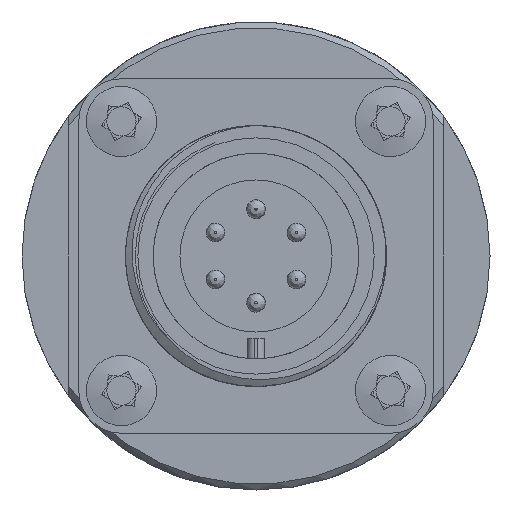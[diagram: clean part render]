
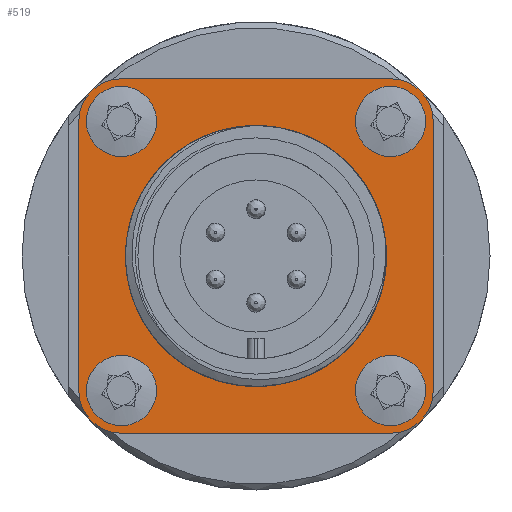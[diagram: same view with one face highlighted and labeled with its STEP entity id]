
A CAD part, front view. The second image highlights one B-rep face of the part: STEP entity #519.
In plain terms, the highlighted planar face has unit normal (0, -1, 0) as drawn and (-1, 0, 0) by its records, which use the part's own axes.
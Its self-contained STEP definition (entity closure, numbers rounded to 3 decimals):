
#519 = ADVANCED_FACE( '', ( #1071, #1072, #1073, #1074, #1075, #1076 ), #1077, .F. );
#1071 = FACE_BOUND( '', #3096, .T. );
#1072 = FACE_BOUND( '', #3097, .T. );
#1073 = FACE_OUTER_BOUND( '', #3098, .T. );
#1074 = FACE_BOUND( '', #3099, .T. );
#1075 = FACE_BOUND( '', #3100, .T. );
#1076 = FACE_BOUND( '', #3101, .T. );
#1077 = PLANE( '', #3102 );
#3096 = EDGE_LOOP( '', ( #7224 ) );
#3097 = EDGE_LOOP( '', ( #7225 ) );
#3098 = EDGE_LOOP( '', ( #7226, #7227, #7228, #7229, #7230, #7231, #7232, #7233 ) );
#3099 = EDGE_LOOP( '', ( #7234 ) );
#3100 = EDGE_LOOP( '', ( #7235 ) );
#3101 = EDGE_LOOP( '', ( #7236 ) );
#3102 = AXIS2_PLACEMENT_3D( '', #7237, #7238, #7239 );
#7224 = ORIENTED_EDGE( '', *, *, #8359, .T. );
#7225 = ORIENTED_EDGE( '', *, *, #8360, .T. );
#7226 = ORIENTED_EDGE( '', *, *, #8361, .F. );
#7227 = ORIENTED_EDGE( '', *, *, #8362, .F. );
#7228 = ORIENTED_EDGE( '', *, *, #8363, .F. );
#7229 = ORIENTED_EDGE( '', *, *, #8268, .F. );
#7230 = ORIENTED_EDGE( '', *, *, #8337, .F. );
#7231 = ORIENTED_EDGE( '', *, *, #8129, .F. );
#7232 = ORIENTED_EDGE( '', *, *, #8364, .F. );
#7233 = ORIENTED_EDGE( '', *, *, #8365, .F. );
#7234 = ORIENTED_EDGE( '', *, *, #8190, .T. );
#7235 = ORIENTED_EDGE( '', *, *, #8366, .T. );
#7236 = ORIENTED_EDGE( '', *, *, #8229, .T. );
#7237 = CARTESIAN_POINT( '', ( -2.4, -11.5, 11.5 ) );
#7238 = DIRECTION( '', ( 1., 0., 0. ) );
#7239 = DIRECTION( '', ( 0., 1., 0. ) );
#8129 = EDGE_CURVE( '', #8674, #8676, #8677, .T. );
#8190 = EDGE_CURVE( '', #8780, #8780, #8781, .T. );
#8229 = EDGE_CURVE( '', #8841, #8841, #8842, .T. );
#8268 = EDGE_CURVE( '', #8902, #8904, #8905, .T. );
#8337 = EDGE_CURVE( '', #8676, #8902, #9019, .T. );
#8359 = EDGE_CURVE( '', #9054, #9054, #9055, .T. );
#8360 = EDGE_CURVE( '', #9056, #9056, #9057, .T. );
#8361 = EDGE_CURVE( '', #9058, #9059, #9060, .T. );
#8362 = EDGE_CURVE( '', #9061, #9058, #9062, .T. );
#8363 = EDGE_CURVE( '', #8904, #9061, #9063, .T. );
#8364 = EDGE_CURVE( '', #9064, #8674, #9065, .T. );
#8365 = EDGE_CURVE( '', #9059, #9064, #9066, .T. );
#8366 = EDGE_CURVE( '', #9067, #9067, #9068, .T. );
#8674 = VERTEX_POINT( '', #9880 );
#8676 = VERTEX_POINT( '', #9883 );
#8677 = LINE( '', #9884, #9885 );
#8780 = VERTEX_POINT( '', #10133 );
#8781 = CIRCLE( '', #10134, 1.5 );
#8841 = VERTEX_POINT( '', #10209 );
#8842 = CIRCLE( '', #10210, 1.5 );
#8902 = VERTEX_POINT( '', #10361 );
#8904 = VERTEX_POINT( '', #10364 );
#8905 = LINE( '', #10365, #10366 );
#9019 = CIRCLE( '', #10821, 3.65 );
#9054 = VERTEX_POINT( '', #10887 );
#9055 = CIRCLE( '', #10888, 11.15 );
#9056 = VERTEX_POINT( '', #10889 );
#9057 = CIRCLE( '', #10890, 1.5 );
#9058 = VERTEX_POINT( '', #10891 );
#9059 = VERTEX_POINT( '', #10892 );
#9060 = CIRCLE( '', #10893, 3.65 );
#9061 = VERTEX_POINT( '', #10894 );
#9062 = LINE( '', #10895, #10896 );
#9063 = CIRCLE( '', #10897, 3.65 );
#9064 = VERTEX_POINT( '', #10898 );
#9065 = CIRCLE( '', #10899, 3.65 );
#9066 = LINE( '', #10900, #10901 );
#9067 = VERTEX_POINT( '', #10902 );
#9068 = CIRCLE( '', #10903, 1.5 );
#9880 = CARTESIAN_POINT( '', ( -2.4, -11.5, -15.15 ) );
#9883 = CARTESIAN_POINT( '', ( -2.4, 11.5, -15.15 ) );
#9884 = CARTESIAN_POINT( '', ( -2.4, -11.5, -15.15 ) );
#9885 = VECTOR( '', #13280, 1000. );
#10133 = CARTESIAN_POINT( '', ( -2.4, 13., 11.5 ) );
#10134 = AXIS2_PLACEMENT_3D( '', #13359, #13360, #13361 );
#10209 = CARTESIAN_POINT( '', ( -2.4, -10., -11.5 ) );
#10210 = AXIS2_PLACEMENT_3D( '', #13417, #13418, #13419 );
#10361 = CARTESIAN_POINT( '', ( -2.4, 15.15, -11.5 ) );
#10364 = CARTESIAN_POINT( '', ( -2.4, 15.15, 11.5 ) );
#10365 = CARTESIAN_POINT( '', ( -2.4, 15.15, 11.5 ) );
#10366 = VECTOR( '', #13472, 1000. );
#10821 = AXIS2_PLACEMENT_3D( '', #13562, #13563, #13564 );
#10887 = CARTESIAN_POINT( '', ( -2.4, 11.15, 0. ) );
#10888 = AXIS2_PLACEMENT_3D( '', #13595, #13596, #13597 );
#10889 = CARTESIAN_POINT( '', ( -2.4, -10., 11.5 ) );
#10890 = AXIS2_PLACEMENT_3D( '', #13598, #13599, #13600 );
#10891 = CARTESIAN_POINT( '', ( -2.4, -11.5, 15.15 ) );
#10892 = CARTESIAN_POINT( '', ( -2.4, -15.15, 11.5 ) );
#10893 = AXIS2_PLACEMENT_3D( '', #13601, #13602, #13603 );
#10894 = CARTESIAN_POINT( '', ( -2.4, 11.5, 15.15 ) );
#10895 = CARTESIAN_POINT( '', ( -2.4, -11.5, 15.15 ) );
#10896 = VECTOR( '', #13604, 1000. );
#10897 = AXIS2_PLACEMENT_3D( '', #13605, #13606, #13607 );
#10898 = CARTESIAN_POINT( '', ( -2.4, -15.15, -11.5 ) );
#10899 = AXIS2_PLACEMENT_3D( '', #13608, #13609, #13610 );
#10900 = CARTESIAN_POINT( '', ( -2.4, -15.15, 11.5 ) );
#10901 = VECTOR( '', #13611, 1000. );
#10902 = CARTESIAN_POINT( '', ( -2.4, 13., -11.5 ) );
#10903 = AXIS2_PLACEMENT_3D( '', #13612, #13613, #13614 );
#13280 = DIRECTION( '', ( 0., 1., 0. ) );
#13359 = CARTESIAN_POINT( '', ( -2.4, 11.5, 11.5 ) );
#13360 = DIRECTION( '', ( 1., 0., 0. ) );
#13361 = DIRECTION( '', ( 0., 1., 0. ) );
#13417 = CARTESIAN_POINT( '', ( -2.4, -11.5, -11.5 ) );
#13418 = DIRECTION( '', ( 1., 0., 0. ) );
#13419 = DIRECTION( '', ( 0., 1., 0. ) );
#13472 = DIRECTION( '', ( 0., 0., 1. ) );
#13562 = CARTESIAN_POINT( '', ( -2.4, 11.5, -11.5 ) );
#13563 = DIRECTION( '', ( 1., 0., 0. ) );
#13564 = DIRECTION( '', ( 0., -1., 0. ) );
#13595 = CARTESIAN_POINT( '', ( -2.4, 0., 0. ) );
#13596 = DIRECTION( '', ( 1., 0., 0. ) );
#13597 = DIRECTION( '', ( 0., 1., 0. ) );
#13598 = CARTESIAN_POINT( '', ( -2.4, -11.5, 11.5 ) );
#13599 = DIRECTION( '', ( 1., 0., 0. ) );
#13600 = DIRECTION( '', ( 0., 1., 0. ) );
#13601 = CARTESIAN_POINT( '', ( -2.4, -11.5, 11.5 ) );
#13602 = DIRECTION( '', ( 1., 0., 0. ) );
#13603 = DIRECTION( '', ( 0., 1., 0. ) );
#13604 = DIRECTION( '', ( 0., -1., 0. ) );
#13605 = CARTESIAN_POINT( '', ( -2.4, 11.5, 11.5 ) );
#13606 = DIRECTION( '', ( 1., 0., 0. ) );
#13607 = DIRECTION( '', ( 0., 1., 0. ) );
#13608 = CARTESIAN_POINT( '', ( -2.4, -11.5, -11.5 ) );
#13609 = DIRECTION( '', ( 1., 0., 0. ) );
#13610 = DIRECTION( '', ( 0., 1., 0. ) );
#13611 = DIRECTION( '', ( 0., 0., -1. ) );
#13612 = CARTESIAN_POINT( '', ( -2.4, 11.5, -11.5 ) );
#13613 = DIRECTION( '', ( 1., 0., 0. ) );
#13614 = DIRECTION( '', ( 0., 1., 0. ) );
